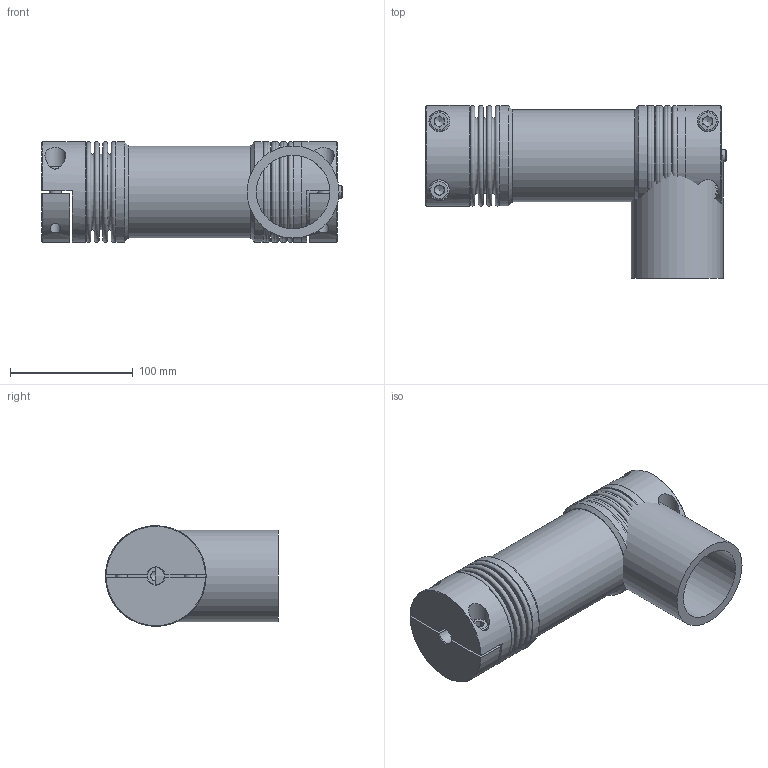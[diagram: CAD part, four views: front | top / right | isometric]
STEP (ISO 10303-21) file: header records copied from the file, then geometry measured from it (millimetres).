
FILE_DESCRIPTION( ( 'Unknown' ), '1' );
FILE_NAME( 'K:/Konstruktion/DRB/DRB150.stp', 'Unknown', ( 'Unknown' ), ( 'Unknown' ), 'XStep 1.0', 'Unknown', ' ' );
FILE_SCHEMA( ( 'automotive_design' ) );
Length unit declared in the file: millimetre
Products named in the file (7): Assem1; KN4H-150; BK80-150_Standard_3; Socket Head Cap Screw_DIN_DIN 912 M10 x 30 --- 30N_7; R75; Aufnahme R75
Bounding box: 244.8 x 141 x 82 mm (x, y, z)
Volume: 990154.6 mm3; surface area: 377815.4 mm2
Topology: 19 solids, 19 shells, 320 faces, 627 edges, 404 vertices
Faces by surface type: plane 175, cylinder 65, torus 52, cone 28
Full cylindrical faces by diameter (mm): 8.376 x6, 10 x5, 10.5 x6, 14 x3, 16 x5, 17 x6, 50 x3, 60 x5, 70.7 x6, 71.9 x6, 75 x2, 82 x6
Entity records: 2726 total; most frequent: CARTESIAN_POINT 705, DIRECTION 422, ORIENTED_EDGE 270, AXIS2_PLACEMENT_3D 191, EDGE_LOOP 168, EDGE_CURVE 135, FACE_OUTER_BOUND 129, VERTEX_POINT 112
